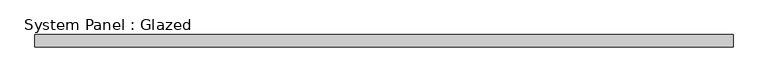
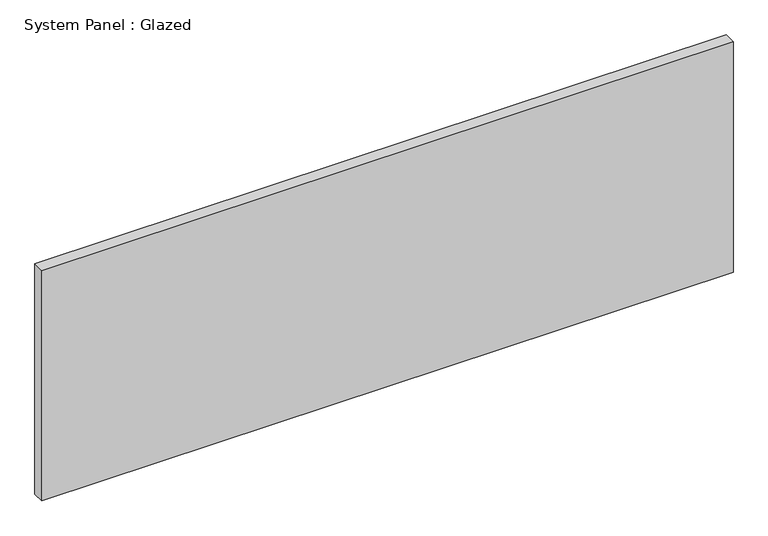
"""IFC4 building model written with IfcOpenShell, lengths in millimetres: plate geometry, System Panel : Glazed."""

from ifc_helpers import new_model, si_unit, origin, origin_with_axes, place, context, project, spatial, polyline, outline, extrude, source, transform, mapped, element, save


def system_panel_glazed_e930eb41(model_context):
    return source(origin(), model_context, "Body", "SweptSolid", [
        extrude(outline(polyline([(730.25, -44.45), (-730.25, -44.45), (-730.25, -19.05), (730.25, -19.05), (730.25, -44.45)])), origin_with_axes(), (0.0, 0.0, 1.0), 514.35),
    ])


if __name__ == "__main__":
    model = new_model("IFC4")
    model_context = context("Model", 3, world=origin())
    ifc_project = project(units=[si_unit("LENGTHUNIT", "METRE", prefix="MILLI")], contexts=[model_context])
    site = spatial("IfcSite", under=ifc_project)
    building = spatial("IfcBuilding", under=site)
    placement = place(None, origin())
    system_panel_glazed_shape = system_panel_glazed_e930eb41(model_context)
    element("IfcPlate", 1, ObjectType="System Panel : Glazed", at=placement, inside=building, context=model_context, shape_type="MappedRepresentation", body=[
        mapped(system_panel_glazed_shape, transform((0.0, 0.0, 0.0), x_axis=(1.0, 0.0, 0.0), y_axis=(0.0, 1.0, 0.0), z_axis=(0.0, 0.0, 1.0))),
    ])
    save(model, "model.ifc")
